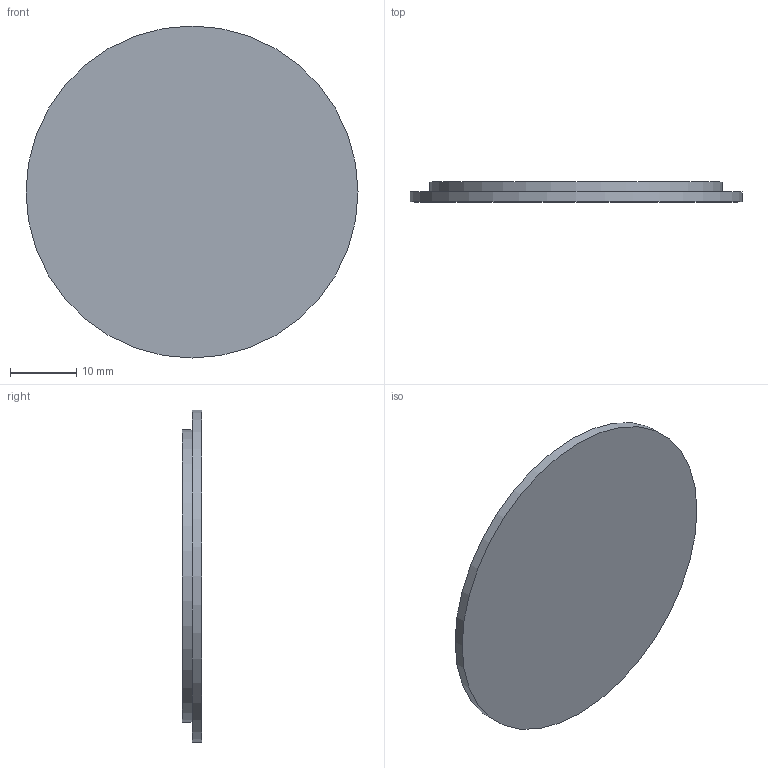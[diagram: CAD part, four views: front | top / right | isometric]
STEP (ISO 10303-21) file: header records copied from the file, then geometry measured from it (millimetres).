
FILE_DESCRIPTION(/* description */ (''),/* implementation_level */ '2;1');
FILE_NAME(/* name */ '/Users/mewash/Desktop/EUMAKERS/EUMAKEIT_stamps_UAUproject/blank_stamp.step',/* time_stamp */ '2017-02-22T11:53:10+01:00',/* author */ (''),/* organization */ (''),/* preprocessor_version */ 'ST-DEVELOPER v16.5',/* originating_system */ 'Autodesk Translation Framework v5.2.0.2920',/* authorisation */ '');
FILE_SCHEMA (('AUTOMOTIVE_DESIGN { 1 0 10303 214 3 1 1 }'));
Length unit declared in the file: millimetre
Products named in the file (1): (Unsaved)
Bounding box: 50 x 3 x 50 mm (x, y, z)
Volume: 5226 mm3; surface area: 4370 mm2
Topology: 1 solids, 1 shells, 5 faces, 6 edges, 4 vertices
Faces by surface type: plane 3, cylinder 2
Full cylindrical faces by diameter (mm): 44 x1, 50 x1
Entity records: 116 total; most frequent: DIRECTION 20, CARTESIAN_POINT 14, AXIS2_PLACEMENT_3D 10, EDGE_LOOP 8, ORIENTED_EDGE 8, FACE_OUTER_BOUND 5, ADVANCED_FACE 5, CIRCLE 4
